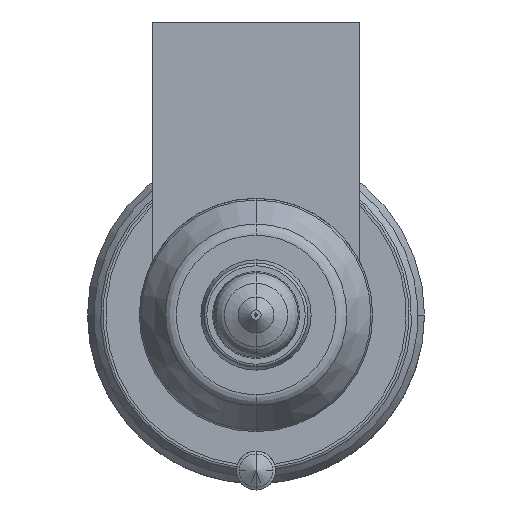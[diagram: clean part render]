
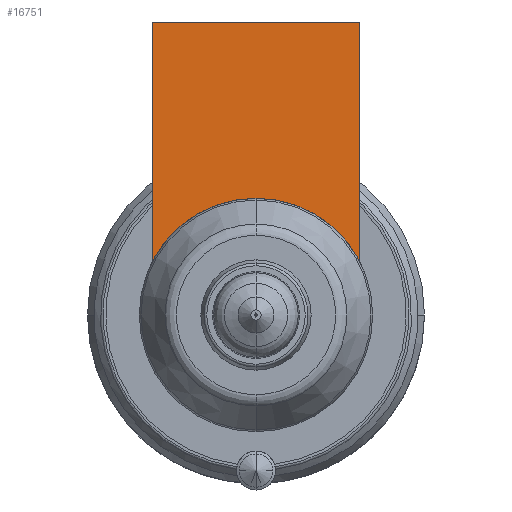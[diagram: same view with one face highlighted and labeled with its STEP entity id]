
A CAD part, front view. The second image highlights one B-rep face of the part: STEP entity #16751.
In plain terms, the highlighted planar face has unit normal (0, -1, 0).
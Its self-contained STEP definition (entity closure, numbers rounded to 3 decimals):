
#15265=DIRECTION('',(0.,0.,-1.));
#15266=VECTOR('',#15265,18.481);
#15267=CARTESIAN_POINT('',(-8.,-54.,22.604));
#15268=LINE('',#15267,#15266);
#15899=CARTESIAN_POINT('',(0.,-54.,0.));
#15900=DIRECTION('',(0.,-1.,0.));
#15901=DIRECTION('',(0.,0.,1.));
#15902=AXIS2_PLACEMENT_3D('',#15899,#15900,#15901);
#15907=DIRECTION('',(1.,0.,0.));
#15908=VECTOR('',#15907,16.);
#15909=CARTESIAN_POINT('',(-8.,-54.,22.604));
#15910=LINE('',#15909,#15908);
#15914=CARTESIAN_POINT('',(0.,-54.,0.));
#15915=DIRECTION('',(0.,-1.,0.));
#15916=DIRECTION('',(0.889,0.,0.458));
#15917=AXIS2_PLACEMENT_3D('',#15914,#15915,#15916);
#16000=DIRECTION('',(0.,0.,-1.));
#16001=VECTOR('',#16000,18.481);
#16002=CARTESIAN_POINT('',(8.,-54.,22.604));
#16003=LINE('',#16002,#16001);
#16109=CARTESIAN_POINT('',(-8.,-54.,22.604));
#16110=VERTEX_POINT('',#16109);
#16115=CARTESIAN_POINT('',(8.,-54.,22.604));
#16116=VERTEX_POINT('',#16115);
#16118=CARTESIAN_POINT('',(-8.,-54.,4.123));
#16120=VERTEX_POINT('',#16118);
#16122=CARTESIAN_POINT('',(8.,-54.,4.123));
#16124=VERTEX_POINT('',#16122);
#16125=CARTESIAN_POINT('',(0.,-54.,9.));
#16126=VERTEX_POINT('',#16125);
#16737=CARTESIAN_POINT('',(-8.,-54.,22.604));
#16738=DIRECTION('',(0.,-1.,0.));
#16739=DIRECTION('',(0.,0.,-1.));
#16740=AXIS2_PLACEMENT_3D('',#16737,#16738,#16739);
#16741=PLANE('',#16740);
#16742=ORIENTED_EDGE('',*,*,#16166,.T.);
#16743=ORIENTED_EDGE('',*,*,#16149,.F.);
#16745=ORIENTED_EDGE('',*,*,#16744,.T.);
#16747=ORIENTED_EDGE('',*,*,#16746,.T.);
#16748=ORIENTED_EDGE('',*,*,#16214,.T.);
#16749=EDGE_LOOP('',(#16742,#16743,#16745,#16747,#16748));
#16750=FACE_OUTER_BOUND('',#16749,.F.);
#16751=ADVANCED_FACE('',(#16750),#16741,.T.);
#15903=CIRCLE('',#15902,9.);
#15918=CIRCLE('',#15917,9.);
#16149=EDGE_CURVE('',#16110,#16120,#15268,.T.);
#16166=EDGE_CURVE('',#16126,#16120,#15903,.T.);
#16214=EDGE_CURVE('',#16124,#16126,#15918,.T.);
#16744=EDGE_CURVE('',#16110,#16116,#15910,.T.);
#16746=EDGE_CURVE('',#16116,#16124,#16003,.T.);
